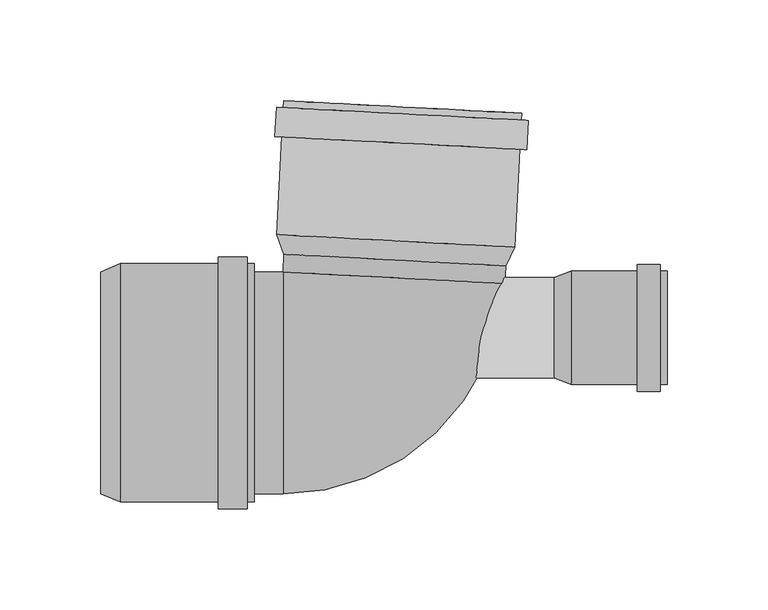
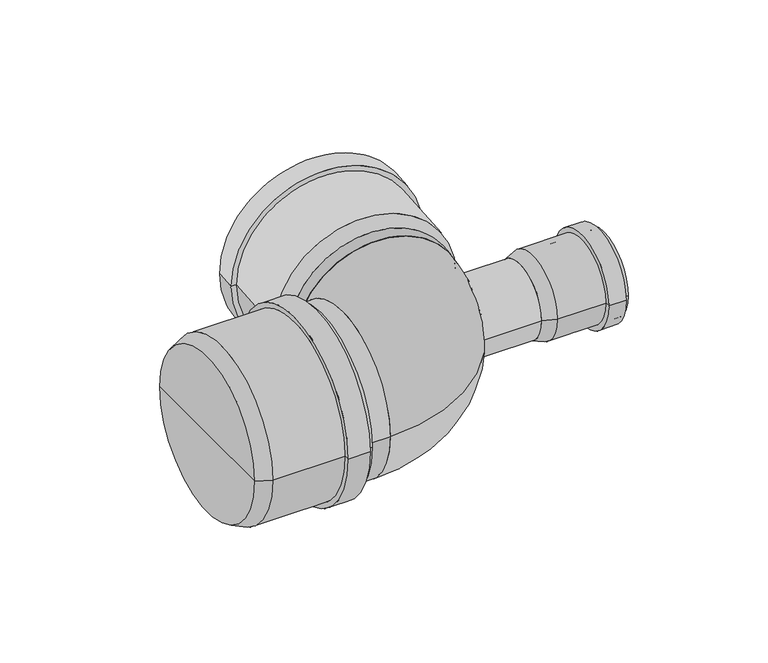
"""IFC4 building model written with IfcOpenShell, lengths in millimetres: pipe fitting geometry, pf_HTBO : pf_HTBO."""

from ifc_helpers import new_model, si_unit, point, frame, frame_2d, origin, origin_2d, place, context, project, spatial, polyline, circle_curve, ellipse_curve, trimmed, segment, composite_curve, outline, extrude, source, transform, mapped, element, save
from ifc_brep_helpers import plane_surface, cylinder_surface, revolved_surface, advanced_brep


def pipe_fitting_e545edde(model_context):
    return source(origin(), model_context, "Body", "SolidModel", [
        advanced_brep(
        [(82.2040636, 2.3, 0.0), (82.2040636, 52.3, 0.0), (90.7040636, 55.4, 0.0), (90.7040636, -0.8, 0.0), (82.2040636, 27.3, 0.0), (138.2040636, -0.8, 0.0), (138.2040636, 55.4, 0.0), (138.2040636, 52.3, 0.0), (138.2040636, 2.3, 0.0), (134.8040636, -0.8, 0.0), (134.8040636, 55.4, 0.0), (134.8040636, -4.2, 0.0), (134.8040636, 58.8, 0.0), (123.4040636, -4.2, 0.0), (123.4040636, 58.8, 0.0), (123.4040636, -0.8, 0.0), (123.4040636, 55.4, 0.0), (90.7040636, 2.3, 0.0), (90.7040636, 52.3, 0.0), (90.7040636, 27.3, 0.0)],
        [
            (0, 1, circle_curve(frame((82.2040636, 27.3, 0.0), z_axis=(1.0, 0.0, 0.0), x_axis=(0.0, 1.0, 0.0)), 25.0)),
            (1, 2),
            (2, 3, circle_curve(frame((90.7040636, 27.3, 0.0), z_axis=(-1.0, 0.0, 0.0), x_axis=(0.0, 1.0, 0.0)), 28.1)),
            (3, 0),
            (1, 0, circle_curve(frame((82.2040636, 27.3, 0.0), z_axis=(1.0, 0.0, 0.0), x_axis=(0.0, 1.0, 0.0)), 25.0)),
            (3, 2, circle_curve(frame((90.7040636, 27.3, 0.0), z_axis=(-1.0, 0.0, 0.0), x_axis=(0.0, 1.0, 0.0)), 28.1)),
            (4, 1),
            (0, 4),
            (5, 6, circle_curve(frame((138.2040636, 27.3, 0.0), z_axis=(1.0, 0.0, 0.0), x_axis=(0.0, 1.0, 0.0)), 28.1)),
            (6, 7),
            (7, 8, circle_curve(frame((138.2040636, 27.3, 0.0), z_axis=(-1.0, 0.0, 0.0), x_axis=(0.0, 1.0, 0.0)), 25.0)),
            (8, 5),
            (6, 5, circle_curve(frame((138.2040636, 27.3, 0.0), z_axis=(1.0, 0.0, 0.0), x_axis=(0.0, 1.0, 0.0)), 28.1)),
            (8, 7, circle_curve(frame((138.2040636, 27.3, 0.0), z_axis=(-1.0, 0.0, 0.0), x_axis=(0.0, 1.0, 0.0)), 25.0)),
            (9, 10, circle_curve(frame((134.8040636, 27.3, 0.0), z_axis=(1.0, 0.0, 0.0), x_axis=(0.0, 1.0, 0.0)), 28.1)),
            (10, 6),
            (5, 9),
            (10, 9, circle_curve(frame((134.8040636, 27.3, 0.0), z_axis=(1.0, 0.0, 0.0), x_axis=(0.0, 1.0, 0.0)), 28.1)),
            (11, 12, circle_curve(frame((134.8040636, 27.3, 0.0), z_axis=(1.0, 0.0, 0.0), x_axis=(0.0, 1.0, 0.0)), 31.5)),
            (12, 10),
            (9, 11),
            (12, 11, circle_curve(frame((134.8040636, 27.3, 0.0), z_axis=(1.0, 0.0, 0.0), x_axis=(0.0, 1.0, 0.0)), 31.5)),
            (13, 14, circle_curve(frame((123.4040636, 27.3, 0.0), z_axis=(1.0, 0.0, 0.0), x_axis=(0.0, 1.0, 0.0)), 31.5)),
            (14, 12),
            (11, 13),
            (14, 13, circle_curve(frame((123.4040636, 27.3, 0.0), z_axis=(1.0, 0.0, 0.0), x_axis=(0.0, 1.0, 0.0)), 31.5)),
            (15, 16, circle_curve(frame((123.4040636, 27.3, 0.0), z_axis=(1.0, 0.0, 0.0), x_axis=(0.0, 1.0, 0.0)), 28.1)),
            (16, 14),
            (13, 15),
            (16, 15, circle_curve(frame((123.4040636, 27.3, 0.0), z_axis=(1.0, 0.0, 0.0), x_axis=(0.0, 1.0, 0.0)), 28.1)),
            (2, 16),
            (15, 3),
            (17, 18, circle_curve(frame((90.7040636, 27.3, 0.0), z_axis=(1.0, 0.0, 0.0), x_axis=(0.0, 1.0, 0.0)), 25.0)),
            (18, 19),
            (19, 17),
            (18, 17, circle_curve(frame((90.7040636, 27.3, 0.0), z_axis=(1.0, 0.0, 0.0), x_axis=(0.0, 1.0, 0.0)), 25.0)),
            (7, 18),
            (17, 8),
        ],
        [
            revolved_surface(polyline([(90.7040636, 55.4, 0.0), (82.2040636, 52.3, 0.0)]), (82.2040636, 27.3, 0.0), (-1.0, 0.0, 0.0)),
            plane_surface(frame((82.2040636, 27.3, 0.0), z_axis=(-1.0, 0.0, 0.0), x_axis=(0.0, 1.0, 0.0))),
            plane_surface(frame((138.2040636, 27.3, 0.0), z_axis=(1.0, 0.0, 0.0), x_axis=(0.0, 1.0, 0.0))),
            cylinder_surface(frame((82.2040636, 27.3, 0.0), z_axis=(-1.0, 0.0, 0.0), x_axis=(0.0, 1.0, 0.0)), 28.1),
            plane_surface(frame((134.8040636, 27.3, 0.0), z_axis=(1.0, 0.0, 0.0), x_axis=(0.0, 1.0, 0.0))),
            cylinder_surface(frame((82.2040636, 27.3, 0.0), z_axis=(-1.0, 0.0, 0.0), x_axis=(0.0, 1.0, 0.0)), 31.5),
            plane_surface(frame((123.4040636, 27.3, 0.0), z_axis=(-1.0, 0.0, 0.0), x_axis=(0.0, 1.0, 0.0))),
            plane_surface(frame((90.7040636, 27.3, 0.0), z_axis=(1.0, 0.0, 0.0), x_axis=(0.0, 1.0, 0.0))),
            revolved_surface(polyline([(90.7040636, 52.3, 0.0), (138.2040636, 52.3, 0.0)]), (82.2040636, 27.3, 0.0), (-1.0, 0.0, 0.0)),
        ],
        [
            (0, [[1, 2, 3, 4]]),
            (0, [[5, -4, 6, -2]]),
            (1, [[7, -1, 8]]),
            (1, [[-8, -5, -7]]),
            (2, [[9, 10, 11, 12]]),
            (2, [[13, -12, 14, -10]]),
            (3, [[15, 16, -9, 17]]),
            (3, [[18, -17, -13, -16]]),
            (4, [[19, 20, -15, 21]]),
            (4, [[22, -21, -18, -20]]),
            (5, [[23, 24, -19, 25]]),
            (5, [[26, -25, -22, -24]]),
            (6, [[27, 28, -23, 29]]),
            (6, [[30, -29, -26, -28]]),
            (3, [[-3, 31, -27, 32]]),
            (3, [[-6, -32, -30, -31]]),
            (7, [[33, 34, 35]]),
            (7, [[36, -35, -34]]),
            (8, [[-11, 37, -33, 38]]),
            (8, [[-14, -38, -36, -37]]),
        ],
    ),
        advanced_brep(
        [(58.1171177, 58.037924, 0.0), (-51.7321311, 63.7948792, 0.0), (-55.3293206, 73.4964372, 0.0), (62.7086904, 67.3103272, 0.0), (3.1924933, 60.9164016, 0.0), (66.1890315, 133.7191912, 0.0), (-51.8489795, 139.9053013, 0.0), (-47.7545984, 139.6907239, 0.0), (62.0946504, 133.9337687, 0.0), (66.0110893, 130.3238508, 0.0), (-52.0269217, 136.5099609, 0.0), (69.4064297, 130.1459086, 0.0), (-55.4222622, 136.6879031, 0.0), (68.6475583, 115.6657803, 0.0), (-56.1811335, 122.2077749, 0.0), (65.2522179, 115.8437226, 0.0), (-52.7857931, 122.0298326, 0.0), (58.6143093, 67.5249046, 0.0), (-51.2349395, 73.2818598, 0.0), (3.6896849, 70.4033822, 0.0)],
        [
            (0, 1, circle_curve(frame((3.1924933, 60.9164016, 0.0), z_axis=(0.05233595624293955, 0.9986295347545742, 0.0), x_axis=(-0.9986295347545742, 0.05233595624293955, 0.0)), 55.0)),
            (1, 2),
            (2, 3, circle_curve(frame((3.6896849, 70.4033822, 0.0), z_axis=(-0.05233595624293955, -0.9986295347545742, 0.0), x_axis=(-0.9986295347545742, 0.05233595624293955, 0.0)), 59.1)),
            (3, 0),
            (1, 0, circle_curve(frame((3.1924933, 60.9164016, 0.0), z_axis=(0.05233595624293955, 0.9986295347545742, 0.0), x_axis=(-0.9986295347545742, 0.05233595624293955, 0.0)), 55.0)),
            (3, 2, circle_curve(frame((3.6896849, 70.4033822, 0.0), z_axis=(-0.05233595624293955, -0.9986295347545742, 0.0), x_axis=(-0.9986295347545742, 0.05233595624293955, 0.0)), 59.1)),
            (4, 1),
            (0, 4),
            (5, 6, circle_curve(frame((7.170026, 136.8122463, 0.0), z_axis=(0.05233595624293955, 0.9986295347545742, 0.0), x_axis=(-0.9986295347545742, 0.05233595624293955, 0.0)), 59.1)),
            (6, 7),
            (7, 8, circle_curve(frame((7.170026, 136.8122463, 0.0), z_axis=(-0.05233595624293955, -0.9986295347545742, 0.0), x_axis=(-0.9986295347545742, 0.05233595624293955, 0.0)), 55.0)),
            (8, 5),
            (6, 5, circle_curve(frame((7.170026, 136.8122463, 0.0), z_axis=(0.05233595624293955, 0.9986295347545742, 0.0), x_axis=(-0.9986295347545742, 0.05233595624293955, 0.0)), 59.1)),
            (8, 7, circle_curve(frame((7.170026, 136.8122463, 0.0), z_axis=(-0.05233595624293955, -0.9986295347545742, 0.0), x_axis=(-0.9986295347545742, 0.05233595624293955, 0.0)), 55.0)),
            (9, 10, circle_curve(frame((6.9920838, 133.4169058, 0.0), z_axis=(0.05233595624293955, 0.9986295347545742, 0.0), x_axis=(-0.9986295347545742, 0.05233595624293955, 0.0)), 59.1)),
            (10, 6),
            (5, 9),
            (10, 9, circle_curve(frame((6.9920838, 133.4169058, 0.0), z_axis=(0.05233595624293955, 0.9986295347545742, 0.0), x_axis=(-0.9986295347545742, 0.05233595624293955, 0.0)), 59.1)),
            (11, 12, circle_curve(frame((6.9920838, 133.4169058, 0.0), z_axis=(0.05233595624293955, 0.9986295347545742, 0.0), x_axis=(-0.9986295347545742, 0.05233595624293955, 0.0)), 62.5)),
            (12, 10),
            (9, 11),
            (12, 11, circle_curve(frame((6.9920838, 133.4169058, 0.0), z_axis=(0.05233595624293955, 0.9986295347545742, 0.0), x_axis=(-0.9986295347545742, 0.05233595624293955, 0.0)), 62.5)),
            (13, 14, circle_curve(frame((6.2332124, 118.9367776, 0.0), z_axis=(0.05233595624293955, 0.9986295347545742, 0.0), x_axis=(-0.9986295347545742, 0.05233595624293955, 0.0)), 62.5)),
            (14, 12),
            (11, 13),
            (14, 13, circle_curve(frame((6.2332124, 118.9367776, 0.0), z_axis=(0.05233595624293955, 0.9986295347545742, 0.0), x_axis=(-0.9986295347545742, 0.05233595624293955, 0.0)), 62.5)),
            (15, 16, circle_curve(frame((6.2332124, 118.9367776, 0.0), z_axis=(0.05233595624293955, 0.9986295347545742, 0.0), x_axis=(-0.9986295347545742, 0.05233595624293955, 0.0)), 59.1)),
            (16, 14),
            (13, 15),
            (16, 15, circle_curve(frame((6.2332124, 118.9367776, 0.0), z_axis=(0.05233595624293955, 0.9986295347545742, 0.0), x_axis=(-0.9986295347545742, 0.05233595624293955, 0.0)), 59.1)),
            (2, 16),
            (15, 3),
            (17, 18, circle_curve(frame((3.6896849, 70.4033822, 0.0), z_axis=(0.05233595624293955, 0.9986295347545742, 0.0), x_axis=(-0.9986295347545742, 0.05233595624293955, 0.0)), 55.0)),
            (18, 19),
            (19, 17),
            (18, 17, circle_curve(frame((3.6896849, 70.4033822, 0.0), z_axis=(0.05233595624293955, 0.9986295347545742, 0.0), x_axis=(-0.9986295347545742, 0.05233595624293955, 0.0)), 55.0)),
            (7, 18),
            (17, 8),
        ],
        [
            revolved_surface(polyline([(-55.3293206, 73.4964372, 0.0), (-51.7321311, 63.7948792, 0.0)]), (3.1924933, 60.9164016, 0.0), (-0.05233595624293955, -0.9986295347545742, 0.0)),
            plane_surface(frame((3.1924933, 60.9164016, 0.0), z_axis=(-0.05233595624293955, -0.9986295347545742, 0.0), x_axis=(-0.9986295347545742, 0.05233595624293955, 0.0))),
            plane_surface(frame((7.170026, 136.8122463, 0.0), z_axis=(0.05233595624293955, 0.9986295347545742, 0.0), x_axis=(-0.9986295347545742, 0.05233595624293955, 0.0))),
            cylinder_surface(frame((3.1924933, 60.9164016, 0.0), z_axis=(-0.05233595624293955, -0.9986295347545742, 0.0), x_axis=(-0.9986295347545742, 0.05233595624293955, 0.0)), 59.1),
            plane_surface(frame((6.9920838, 133.4169058, 0.0), z_axis=(0.05233595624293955, 0.9986295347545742, 0.0), x_axis=(-0.9986295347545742, 0.05233595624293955, 0.0))),
            cylinder_surface(frame((3.1924933, 60.9164016, 0.0), z_axis=(-0.05233595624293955, -0.9986295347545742, 0.0), x_axis=(-0.9986295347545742, 0.05233595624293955, 0.0)), 62.5),
            plane_surface(frame((6.2332124, 118.9367776, 0.0), z_axis=(-0.05233595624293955, -0.9986295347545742, 0.0), x_axis=(-0.9986295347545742, 0.05233595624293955, 0.0))),
            plane_surface(frame((3.6896849, 70.4033822, 0.0), z_axis=(0.05233595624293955, 0.9986295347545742, 0.0), x_axis=(-0.9986295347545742, 0.05233595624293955, 0.0))),
            revolved_surface(polyline([(-51.234939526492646, 73.28185978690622, 0.0), (-47.75459843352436, 139.69072390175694, 0.0)]), (3.1924933, 60.9164016, 0.0), (-0.05233595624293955, -0.9986295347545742, 0.0)),
        ],
        [
            (0, [[1, 2, 3, 4]]),
            (0, [[5, -4, 6, -2]]),
            (1, [[7, -1, 8]]),
            (1, [[-8, -5, -7]]),
            (2, [[9, 10, 11, 12]]),
            (2, [[13, -12, 14, -10]]),
            (3, [[15, 16, -9, 17]]),
            (3, [[18, -17, -13, -16]]),
            (4, [[19, 20, -15, 21]]),
            (4, [[22, -21, -18, -20]]),
            (5, [[23, 24, -19, 25]]),
            (5, [[26, -25, -22, -24]]),
            (6, [[27, 28, -23, 29]]),
            (6, [[30, -29, -26, -28]]),
            (3, [[-3, 31, -27, 32]]),
            (3, [[-6, -32, -30, -31]]),
            (7, [[33, 34, 35]]),
            (7, [[36, -35, -34]]),
            (8, [[-11, 37, -33, 38]]),
            (8, [[-14, -38, -36, -37]]),
        ],
    ),
        advanced_brep(
        [(-142.5, -55.0, 0.0), (-142.5, 55.0, 0.0), (-133.0, 59.1, 0.0), (-133.0, -59.1, 0.0), (-142.5, 0.0, 0.0), (-66.5, -59.1, 0.0), (-66.5, 59.1, 0.0), (-66.5, 55.0, 0.0), (-66.5, -55.0, 0.0), (-69.9, -59.1, 0.0), (-69.9, 59.1, 0.0), (-69.9, -62.5, 0.0), (-69.9, 62.5, 0.0), (-84.4, -62.5, 0.0), (-84.4, 62.5, 0.0), (-84.4, -59.1, 0.0), (-84.4, 59.1, 0.0), (-133.0, -55.0, 0.0), (-133.0, 55.0, 0.0), (-133.0, 0.0, 0.0)],
        [
            (0, 1, circle_curve(frame((-142.5, 0.0, 0.0), z_axis=(1.0, 0.0, 0.0), x_axis=(0.0, 1.0, 0.0)), 55.0)),
            (1, 2),
            (2, 3, circle_curve(frame((-133.0, 0.0, 0.0), z_axis=(-1.0, 0.0, 0.0), x_axis=(0.0, 1.0, 0.0)), 59.1)),
            (3, 0),
            (1, 0, circle_curve(frame((-142.5, 0.0, 0.0), z_axis=(1.0, 0.0, 0.0), x_axis=(0.0, 1.0, 0.0)), 55.0)),
            (3, 2, circle_curve(frame((-133.0, 0.0, 0.0), z_axis=(-1.0, 0.0, 0.0), x_axis=(0.0, 1.0, 0.0)), 59.1)),
            (4, 1),
            (0, 4),
            (5, 6, circle_curve(frame((-66.5, 0.0, 0.0), z_axis=(1.0, 0.0, 0.0), x_axis=(0.0, 1.0, 0.0)), 59.1)),
            (6, 7),
            (7, 8, circle_curve(frame((-66.5, 0.0, 0.0), z_axis=(-1.0, 0.0, 0.0), x_axis=(0.0, 1.0, 0.0)), 55.0)),
            (8, 5),
            (6, 5, circle_curve(frame((-66.5, 0.0, 0.0), z_axis=(1.0, 0.0, 0.0), x_axis=(0.0, 1.0, 0.0)), 59.1)),
            (8, 7, circle_curve(frame((-66.5, 0.0, 0.0), z_axis=(-1.0, 0.0, 0.0), x_axis=(0.0, 1.0, 0.0)), 55.0)),
            (9, 10, circle_curve(frame((-69.9, 0.0, 0.0), z_axis=(1.0, 0.0, 0.0), x_axis=(0.0, 1.0, 0.0)), 59.1)),
            (10, 6),
            (5, 9),
            (10, 9, circle_curve(frame((-69.9, 0.0, 0.0), z_axis=(1.0, 0.0, 0.0), x_axis=(0.0, 1.0, 0.0)), 59.1)),
            (11, 12, circle_curve(frame((-69.9, 0.0, 0.0), z_axis=(1.0, 0.0, 0.0), x_axis=(0.0, 1.0, 0.0)), 62.5)),
            (12, 10),
            (9, 11),
            (12, 11, circle_curve(frame((-69.9, 0.0, 0.0), z_axis=(1.0, 0.0, 0.0), x_axis=(0.0, 1.0, 0.0)), 62.5)),
            (13, 14, circle_curve(frame((-84.4, 0.0, 0.0), z_axis=(1.0, 0.0, 0.0), x_axis=(0.0, 1.0, 0.0)), 62.5)),
            (14, 12),
            (11, 13),
            (14, 13, circle_curve(frame((-84.4, 0.0, 0.0), z_axis=(1.0, 0.0, 0.0), x_axis=(0.0, 1.0, 0.0)), 62.5)),
            (15, 16, circle_curve(frame((-84.4, 0.0, 0.0), z_axis=(1.0, 0.0, 0.0), x_axis=(0.0, 1.0, 0.0)), 59.1)),
            (16, 14),
            (13, 15),
            (16, 15, circle_curve(frame((-84.4, 0.0, 0.0), z_axis=(1.0, 0.0, 0.0), x_axis=(0.0, 1.0, 0.0)), 59.1)),
            (2, 16),
            (15, 3),
            (17, 18, circle_curve(frame((-133.0, 0.0, 0.0), z_axis=(1.0, 0.0, 0.0), x_axis=(0.0, 1.0, 0.0)), 55.0)),
            (18, 19),
            (19, 17),
            (18, 17, circle_curve(frame((-133.0, 0.0, 0.0), z_axis=(1.0, 0.0, 0.0), x_axis=(0.0, 1.0, 0.0)), 55.0)),
            (7, 18),
            (17, 8),
        ],
        [
            revolved_surface(polyline([(-133.0, 59.1, 0.0), (-142.5, 55.0, 0.0)]), (-142.5, 0.0, 0.0), (-1.0, 0.0, 0.0)),
            plane_surface(frame((-142.5, 0.0, 0.0), z_axis=(-1.0, 0.0, 0.0), x_axis=(0.0, 1.0, 0.0))),
            plane_surface(frame((-66.5, 0.0, 0.0), z_axis=(1.0, 0.0, 0.0), x_axis=(0.0, 1.0, 0.0))),
            cylinder_surface(frame((-142.5, 0.0, 0.0), z_axis=(-1.0, 0.0, 0.0), x_axis=(0.0, 1.0, 0.0)), 59.1),
            plane_surface(frame((-69.9, 0.0, 0.0), z_axis=(1.0, 0.0, 0.0), x_axis=(0.0, 1.0, 0.0))),
            cylinder_surface(frame((-142.5, 0.0, 0.0), z_axis=(-1.0, 0.0, 0.0), x_axis=(0.0, 1.0, 0.0)), 62.5),
            plane_surface(frame((-84.4, 0.0, 0.0), z_axis=(-1.0, 0.0, 0.0), x_axis=(0.0, 1.0, 0.0))),
            plane_surface(frame((-133.0, 0.0, 0.0), z_axis=(1.0, 0.0, 0.0), x_axis=(0.0, 1.0, 0.0))),
            revolved_surface(polyline([(-133.0, 55.0, 0.0), (-66.5, 55.0, 0.0)]), (-142.5, 0.0, 0.0), (-1.0, 0.0, 0.0)),
        ],
        [
            (0, [[1, 2, 3, 4]]),
            (0, [[5, -4, 6, -2]]),
            (1, [[7, -1, 8]]),
            (1, [[-8, -5, -7]]),
            (2, [[9, 10, 11, 12]]),
            (2, [[13, -12, 14, -10]]),
            (3, [[15, 16, -9, 17]]),
            (3, [[18, -17, -13, -16]]),
            (4, [[19, 20, -15, 21]]),
            (4, [[22, -21, -18, -20]]),
            (5, [[23, 24, -19, 25]]),
            (5, [[26, -25, -22, -24]]),
            (6, [[27, 28, -23, 29]]),
            (6, [[30, -29, -26, -28]]),
            (3, [[-3, 31, -27, 32]]),
            (3, [[-6, -32, -30, -31]]),
            (7, [[33, 34, 35]]),
            (7, [[36, -35, -34]]),
            (8, [[-11, 37, -33, 38]]),
            (8, [[-14, -38, -36, -37]]),
        ],
    ),
        extrude(outline(composite_curve([segment(trimmed(circle_curve(frame_2d((27.3, 0.0)), 25.0), [point((52.3, 0.0))], [point((2.3, 0.0))], False, "CARTESIAN"), True, "CONTINUOUS"), segment(trimmed(circle_curve(frame_2d((27.3, 0.0)), 25.0), [point((2.3, 0.0))], [point((52.3, 0.0))], False, "CARTESIAN"), True, "CONTINUOUS")], self_intersect=False)), frame((0.0, 0.0, 0.0), z_axis=(1.0, 0.0, 0.0), x_axis=(0.0, 1.0, 0.0)), (0.0, 0.0, 1.0), 82.2040636),
        extrude(outline(composite_curve([segment(trimmed(circle_curve(origin_2d(), 55.0), [point((0.0, -55.0))], [point((0.0, 55.0000001))], False, "CARTESIAN"), True, "CONTINUOUS"), segment(trimmed(circle_curve(origin_2d(), 55.0), [point((0.0, 55.0000001))], [point((0.0, -55.0))], False, "CARTESIAN"), True, "CONTINUOUS")], self_intersect=False)), frame((2.7315732, 52.1215224, 0.0), z_axis=(0.052335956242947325, 0.9986295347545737, 0.0), x_axis=(0.0, 0.0, 1.0)), (0.0, 0.0, 1.0), 8.8069488),
        extrude(outline(composite_curve([segment(trimmed(circle_curve(origin_2d(), 55.0), [point((-55.0, 0.0))], [point((55.0, 0.0))], False, "CARTESIAN"), True, "CONTINUOUS"), segment(trimmed(circle_curve(origin_2d(), 55.0), [point((55.0, 0.0))], [point((-55.0, 0.0))], False, "CARTESIAN"), True, "CONTINUOUS")], self_intersect=False)), frame((-66.5, 0.0, 0.0), z_axis=(1.0, 0.0, 0.0), x_axis=(0.0, 1.0, 0.0)), (0.0, 0.0, 1.0), 14.3069488),
        advanced_brep(
        [(57.6561977, 49.2430448, 0.0), (-52.1930512, 55.0, 0.0), (-52.1930512, -55.0, 0.0)],
        [
            (0, 1, circle_curve(frame((2.7315732, 52.1215224, 0.0), z_axis=(0.052335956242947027, 0.9986295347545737, 0.0), x_axis=(-0.9986295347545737, 0.052335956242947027, 0.0)), 55.0)),
            (1, 0, circle_curve(frame((2.7315732, 52.1215224, 0.0), z_axis=(0.052335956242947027, 0.9986295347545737, 0.0), x_axis=(-0.9986295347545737, 0.052335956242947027, 0.0)), 55.0)),
            (2, 1, circle_curve(frame((-52.1930512, 0.0, 0.0), z_axis=(-1.0, 0.0, 0.0), x_axis=(0.0, 1.0, 0.0)), 55.0)),
            (1, 2, circle_curve(frame((-52.1930512, 0.0, 0.0), z_axis=(-1.0, 0.0, 0.0), x_axis=(0.0, 1.0, 0.0)), 55.0)),
            (0, 2, circle_curve(frame((-52.1930512, 55.0, 0.0), z_axis=(0.0, 0.0, -1.0), x_axis=(0.9986295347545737, -0.052335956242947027, 0.0)), 110.0)),
        ],
        [
            plane_surface(frame((-52.1930512, 55.0, -14.8), z_axis=(0.052335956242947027, 0.9986295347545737, 0.0), x_axis=(0.9986295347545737, -0.052335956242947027, 0.0))),
            plane_surface(frame((-52.1930512, 55.0, -14.8), z_axis=(-1.0, 0.0, 0.0), x_axis=(0.0, -1.0, 0.0))),
            revolved_surface(trimmed(ellipse_curve(frame((2.7315732, 52.1215224, 0.0), z_axis=(0.052335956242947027, 0.9986295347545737, 0.0), x_axis=(-0.9986295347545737, 0.052335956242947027, 0.0)), 55.0, 55.0), [point((57.6561977, 49.2430448, 0.0))], [point((-52.1930512, 55.0, 0.0))], True, "CARTESIAN"), (-52.1930512, 55.0, -14.8), (0.0, 0.0, -1.0)),
            revolved_surface(trimmed(ellipse_curve(frame((2.7315732, 52.1215224, 0.0), z_axis=(0.052335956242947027, 0.9986295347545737, 0.0), x_axis=(-0.9986295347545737, 0.052335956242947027, 0.0)), 55.0, 55.0), [point((-52.1930512, 55.0, 0.0))], [point((57.6561977, 49.2430448, 0.0))], True, "CARTESIAN"), (-52.1930512, 55.0, -14.8), (0.0, 0.0, -1.0)),
        ],
        [
            (0, [[1, 2]]),
            (1, [[3, 4]]),
            (2, [[-1, 5, -4]]),
            (3, [[-5, -2, -3]]),
        ],
    ),
    ])


if __name__ == "__main__":
    model = new_model("IFC4")
    model_context = context("Model", 3, world=origin())
    ifc_project = project(units=[si_unit("LENGTHUNIT", "METRE", prefix="MILLI")], contexts=[model_context])
    site = spatial("IfcSite", under=ifc_project)
    building = spatial("IfcBuilding", under=site)
    placement = place(None, origin())
    pipe_fitting_shape = pipe_fitting_e545edde(model_context)
    element("IfcPipeFitting", 1, ObjectType="pf_HTBO : pf_HTBO", at=placement, inside=building, context=model_context, shape_type="MappedRepresentation", body=[
        mapped(pipe_fitting_shape, transform((0.0, 0.0, 0.0), x_axis=(1.0, 0.0, 0.0), y_axis=(0.0, 1.0, 0.0), z_axis=(0.0, 0.0, 1.0))),
    ])
    save(model, "model.ifc")
